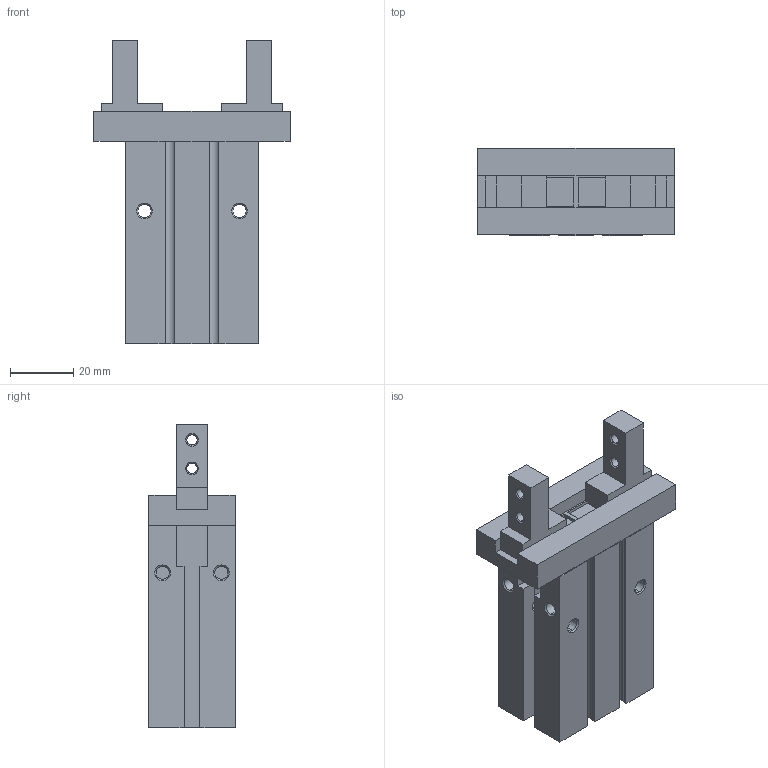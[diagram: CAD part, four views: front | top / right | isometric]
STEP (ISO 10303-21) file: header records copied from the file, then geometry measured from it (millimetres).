
FILE_DESCRIPTION (( 'STEP AP203' ), '1' );
FILE_NAME ('GMHZL2-20S.STEP', '2024-07-24T07:34:37', ( '微软用户' ), ( '微软中国' ), 'SwSTEP 2.0', 'SolidWorks 2018', '' );
FILE_SCHEMA (( 'CONFIG_CONTROL_DESIGN' ));
Length unit declared in the file: millimetre
Products named in the file (3): _MHZL2-20S_Finger(0); GMHZL2-20S; _MHZL2-20S_Body(0)
Assembly tree (3 placements, depth 2):
  GMHZL2-20S
    _MHZL2-20S_Body(0)
    _MHZL2-20S_Finger(0)  x2
Bounding box: 62 x 27.6 x 96 mm (x, y, z)
Volume: 79772.8 mm3; surface area: 23751.2 mm2
Topology: 3 solids, 3 shells, 215 faces, 550 edges, 350 vertices
Faces by surface type: plane 123, cylinder 50, cone 42
Entity records: 5975 total; most frequent: CARTESIAN_POINT 999, DIRECTION 998, ORIENTED_EDGE 956, EDGE_CURVE 478, AXIS2_PLACEMENT_3D 337, LINE 324, VECTOR 324, VERTEX_POINT 306
